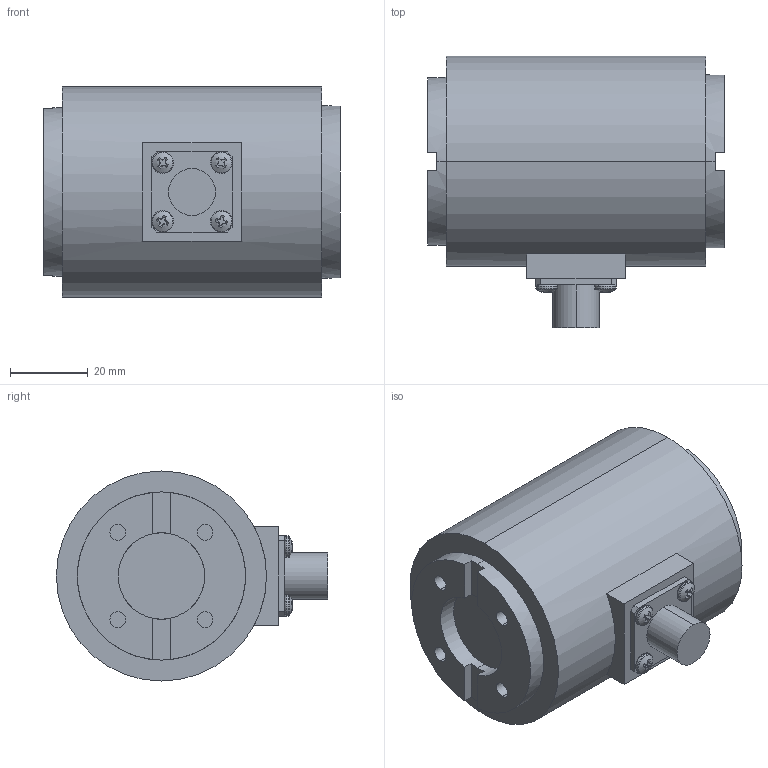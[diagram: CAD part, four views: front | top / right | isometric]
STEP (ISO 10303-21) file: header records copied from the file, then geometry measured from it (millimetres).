
FILE_DESCRIPTION (( 'STEP AP203' ), '1' );
FILE_NAME ('15228-BRICK MODEL.STEP', '2017-05-24T01:29:29', ( '' ), ( '' ), 'SwSTEP 2.0', 'SolidWorks 2016', '' );
FILE_SCHEMA (( 'CONFIG_CONTROL_DESIGN' ));
Length unit declared in the file: inch
Products named in the file (1): 15228-BRICK MODEL
Bounding box: 76.2 x 69.68 x 53.98 mm (x, y, z)
Volume: 167005.1 mm3; surface area: 19676.6 mm2
Topology: 1 solids, 1 shells, 240 faces, 651 edges, 434 vertices
Faces by surface type: plane 111, cylinder 92, bspline 20, cone 17
Entity records: 8386 total; most frequent: CARTESIAN_POINT 2642, ORIENTED_EDGE 1302, DIRECTION 1041, EDGE_CURVE 651, VERTEX_POINT 434, AXIS2_PLACEMENT_3D 385, VECTOR 271, LINE 271
